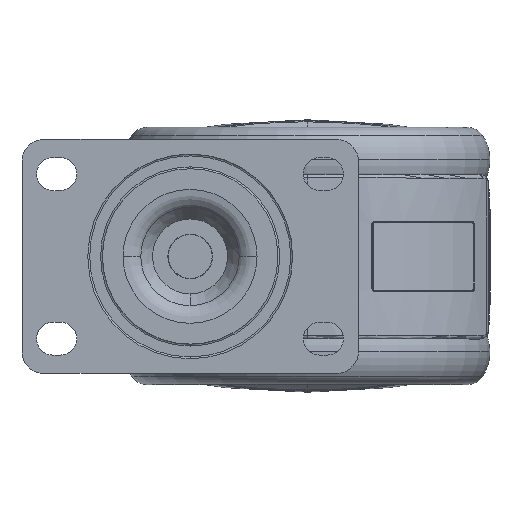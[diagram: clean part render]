
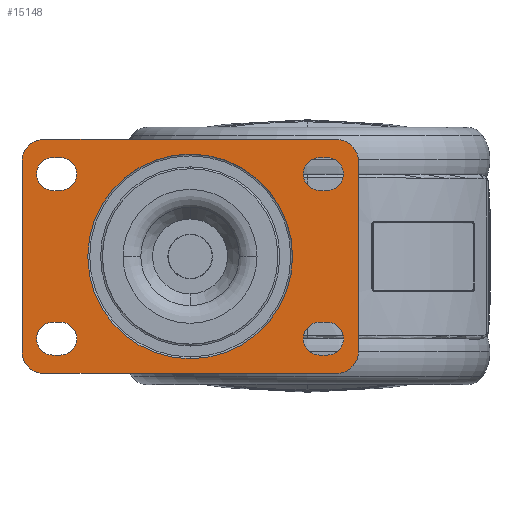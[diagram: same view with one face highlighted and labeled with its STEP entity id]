
A CAD part, top view. The second image highlights one B-rep face of the part: STEP entity #15148.
In plain terms, the highlighted planar face has unit normal (0, 0, 1).
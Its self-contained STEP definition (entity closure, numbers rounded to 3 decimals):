
#2256=FACE_BOUND('',#21851,.T.);
#2257=FACE_BOUND('',#21852,.T.);
#2258=FACE_BOUND('',#21853,.T.);
#2259=FACE_BOUND('',#21854,.T.);
#2260=FACE_BOUND('',#21855,.T.);
#2261=FACE_BOUND('',#21856,.T.);
#6232=LINE('',#131074,#10230);
#6235=LINE('',#131082,#10233);
#6237=LINE('',#131088,#10235);
#6240=LINE('',#131096,#10238);
#6242=LINE('',#131102,#10240);
#6245=LINE('',#131110,#10243);
#6247=LINE('',#131116,#10245);
#6250=LINE('',#131124,#10248);
#6254=LINE('',#131165,#10252);
#6258=LINE('',#131175,#10256);
#6261=LINE('',#131183,#10259);
#6263=LINE('',#131189,#10261);
#10230=VECTOR('',#85036,1.);
#10233=VECTOR('',#85045,1.);
#10235=VECTOR('',#85053,1.);
#10238=VECTOR('',#85062,1.);
#10240=VECTOR('',#85070,1.);
#10243=VECTOR('',#85079,1.);
#10245=VECTOR('',#85087,1.);
#10248=VECTOR('',#85096,1.);
#10252=VECTOR('',#85112,1.);
#10256=VECTOR('',#85122,1.);
#10259=VECTOR('',#85131,1.);
#10261=VECTOR('',#85139,1.);
#11605=PLANE('',#68678);
#15148=ADVANCED_FACE('',(#2256,#2257,#2258,#2259,#2260,#2261),#11605,.F.);
#21851=EDGE_LOOP('',(#44020,#44021,#44022,#44023,#44024));
#21852=EDGE_LOOP('',(#44025,#44026,#44027,#44028,#44029));
#21853=EDGE_LOOP('',(#44030,#44031,#44032,#44033,#44034));
#21854=EDGE_LOOP('',(#44035,#44036,#44037,#44038,#44039));
#21855=EDGE_LOOP('',(#44040,#44041));
#21856=EDGE_LOOP('',(#44042,#44043,#44044,#44045,#44046,#44047,#44048,#44049));
#24735=CIRCLE('',#68566,4.5);
#24737=CIRCLE('',#68569,4.5);
#24739=CIRCLE('',#68572,4.5);
#24741=CIRCLE('',#68575,4.5);
#24743=CIRCLE('',#68578,28.);
#24794=CIRCLE('',#68641,4.5);
#24795=CIRCLE('',#68644,4.5);
#24796=CIRCLE('',#68647,4.5);
#24797=CIRCLE('',#68650,4.5);
#24798=CIRCLE('',#68653,4.5);
#24799=CIRCLE('',#68656,4.5);
#24800=CIRCLE('',#68659,4.5);
#24801=CIRCLE('',#68662,4.5);
#24803=CIRCLE('',#68665,6.);
#24804=CIRCLE('',#68668,6.);
#24805=CIRCLE('',#68671,6.);
#24806=CIRCLE('',#68674,6.);
#24807=CIRCLE('',#68677,28.);
#44020=ORIENTED_EDGE('',*,*,#60256,.T.);
#44021=ORIENTED_EDGE('',*,*,#60164,.T.);
#44022=ORIENTED_EDGE('',*,*,#60257,.T.);
#44023=ORIENTED_EDGE('',*,*,#60259,.T.);
#44024=ORIENTED_EDGE('',*,*,#60253,.F.);
#44025=ORIENTED_EDGE('',*,*,#60263,.T.);
#44026=ORIENTED_EDGE('',*,*,#60168,.T.);
#44027=ORIENTED_EDGE('',*,*,#60264,.F.);
#44028=ORIENTED_EDGE('',*,*,#60266,.T.);
#44029=ORIENTED_EDGE('',*,*,#60260,.T.);
#44030=ORIENTED_EDGE('',*,*,#60269,.T.);
#44031=ORIENTED_EDGE('',*,*,#60271,.F.);
#44032=ORIENTED_EDGE('',*,*,#60273,.T.);
#44033=ORIENTED_EDGE('',*,*,#60172,.T.);
#44034=ORIENTED_EDGE('',*,*,#60267,.T.);
#44035=ORIENTED_EDGE('',*,*,#60276,.T.);
#44036=ORIENTED_EDGE('',*,*,#60278,.T.);
#44037=ORIENTED_EDGE('',*,*,#60280,.T.);
#44038=ORIENTED_EDGE('',*,*,#60176,.T.);
#44039=ORIENTED_EDGE('',*,*,#60274,.F.);
#44040=ORIENTED_EDGE('',*,*,#60180,.F.);
#44041=ORIENTED_EDGE('',*,*,#60298,.F.);
#44042=ORIENTED_EDGE('',*,*,#60290,.F.);
#44043=ORIENTED_EDGE('',*,*,#60292,.F.);
#44044=ORIENTED_EDGE('',*,*,#60294,.T.);
#44045=ORIENTED_EDGE('',*,*,#60295,.F.);
#44046=ORIENTED_EDGE('',*,*,#60297,.T.);
#44047=ORIENTED_EDGE('',*,*,#60283,.F.);
#44048=ORIENTED_EDGE('',*,*,#60285,.F.);
#44049=ORIENTED_EDGE('',*,*,#60287,.F.);
#50556=VERTEX_POINT('',#130897);
#50557=VERTEX_POINT('',#130898);
#50560=VERTEX_POINT('',#130906);
#50561=VERTEX_POINT('',#130907);
#50564=VERTEX_POINT('',#130915);
#50565=VERTEX_POINT('',#130916);
#50568=VERTEX_POINT('',#130924);
#50569=VERTEX_POINT('',#130925);
#50572=VERTEX_POINT('',#130933);
#50573=VERTEX_POINT('',#130934);
#50630=VERTEX_POINT('',#131075);
#50631=VERTEX_POINT('',#131076);
#50632=VERTEX_POINT('',#131083);
#50633=VERTEX_POINT('',#131089);
#50634=VERTEX_POINT('',#131090);
#50635=VERTEX_POINT('',#131097);
#50636=VERTEX_POINT('',#131103);
#50637=VERTEX_POINT('',#131107);
#50638=VERTEX_POINT('',#131111);
#50639=VERTEX_POINT('',#131117);
#50640=VERTEX_POINT('',#131121);
#50641=VERTEX_POINT('',#131125);
#50642=VERTEX_POINT('',#131160);
#50643=VERTEX_POINT('',#131162);
#50644=VERTEX_POINT('',#131166);
#50645=VERTEX_POINT('',#131170);
#50646=VERTEX_POINT('',#131174);
#50647=VERTEX_POINT('',#131178);
#50648=VERTEX_POINT('',#131182);
#50649=VERTEX_POINT('',#131186);
#60164=EDGE_CURVE('',#50556,#50557,#24735,.T.);
#60168=EDGE_CURVE('',#50560,#50561,#24737,.T.);
#60172=EDGE_CURVE('',#50564,#50565,#24739,.T.);
#60176=EDGE_CURVE('',#50568,#50569,#24741,.T.);
#60180=EDGE_CURVE('',#50572,#50573,#24743,.T.);
#60253=EDGE_CURVE('',#50630,#50631,#6232,.T.);
#60256=EDGE_CURVE('',#50630,#50556,#24794,.T.);
#60257=EDGE_CURVE('',#50557,#50632,#6235,.T.);
#60259=EDGE_CURVE('',#50632,#50631,#24795,.T.);
#60260=EDGE_CURVE('',#50633,#50634,#6237,.T.);
#60263=EDGE_CURVE('',#50634,#50560,#24796,.T.);
#60264=EDGE_CURVE('',#50635,#50561,#6240,.T.);
#60266=EDGE_CURVE('',#50635,#50633,#24797,.T.);
#60267=EDGE_CURVE('',#50565,#50636,#6242,.T.);
#60269=EDGE_CURVE('',#50636,#50637,#24798,.T.);
#60271=EDGE_CURVE('',#50638,#50637,#6245,.T.);
#60273=EDGE_CURVE('',#50638,#50564,#24799,.T.);
#60274=EDGE_CURVE('',#50639,#50569,#6247,.T.);
#60276=EDGE_CURVE('',#50639,#50640,#24800,.T.);
#60278=EDGE_CURVE('',#50640,#50641,#6250,.T.);
#60280=EDGE_CURVE('',#50641,#50568,#24801,.T.);
#60283=EDGE_CURVE('',#50642,#50643,#24803,.T.);
#60285=EDGE_CURVE('',#50644,#50642,#6254,.T.);
#60287=EDGE_CURVE('',#50645,#50644,#24804,.T.);
#60290=EDGE_CURVE('',#50646,#50645,#6258,.T.);
#60292=EDGE_CURVE('',#50647,#50646,#24805,.T.);
#60294=EDGE_CURVE('',#50647,#50648,#6261,.T.);
#60295=EDGE_CURVE('',#50649,#50648,#24806,.T.);
#60297=EDGE_CURVE('',#50649,#50643,#6263,.T.);
#60298=EDGE_CURVE('',#50573,#50572,#24807,.T.);
#68566=AXIS2_PLACEMENT_3D('',#130896,#84858,#84859);
#68569=AXIS2_PLACEMENT_3D('',#130905,#84866,#84867);
#68572=AXIS2_PLACEMENT_3D('',#130914,#84874,#84875);
#68575=AXIS2_PLACEMENT_3D('',#130923,#84882,#84883);
#68578=AXIS2_PLACEMENT_3D('',#130932,#84890,#84891);
#68641=AXIS2_PLACEMENT_3D('',#131080,#85041,#85042);
#68644=AXIS2_PLACEMENT_3D('',#131086,#85049,#85050);
#68647=AXIS2_PLACEMENT_3D('',#131094,#85058,#85059);
#68650=AXIS2_PLACEMENT_3D('',#131100,#85066,#85067);
#68653=AXIS2_PLACEMENT_3D('',#131106,#85074,#85075);
#68656=AXIS2_PLACEMENT_3D('',#131114,#85083,#85084);
#68659=AXIS2_PLACEMENT_3D('',#131120,#85091,#85092);
#68662=AXIS2_PLACEMENT_3D('',#131128,#85100,#85101);
#68665=AXIS2_PLACEMENT_3D('',#131161,#85107,#85108);
#68668=AXIS2_PLACEMENT_3D('',#131169,#85116,#85117);
#68671=AXIS2_PLACEMENT_3D('',#131179,#85126,#85127);
#68674=AXIS2_PLACEMENT_3D('',#131185,#85134,#85135);
#68677=AXIS2_PLACEMENT_3D('',#131191,#85142,#85143);
#68678=AXIS2_PLACEMENT_3D('',#131192,#85144,#85145);
#84858=DIRECTION('',(0.,0.,-1.));
#84859=DIRECTION('',(-1.,0.,0.));
#84866=DIRECTION('',(0.,0.,-1.));
#84867=DIRECTION('',(-1.,0.,0.));
#84874=DIRECTION('',(0.,0.,-1.));
#84875=DIRECTION('',(-1.,0.,0.));
#84882=DIRECTION('',(0.,0.,-1.));
#84883=DIRECTION('',(-1.,0.,0.));
#84890=DIRECTION('',(0.,0.,1.));
#84891=DIRECTION('',(-1.,0.,0.));
#85036=DIRECTION('',(1.,0.,0.));
#85041=DIRECTION('',(0.,0.,-1.));
#85042=DIRECTION('',(-1.,0.,0.));
#85045=DIRECTION('',(1.,0.,0.));
#85049=DIRECTION('',(0.,0.,-1.));
#85050=DIRECTION('',(-1.,0.,0.));
#85053=DIRECTION('',(-1.,0.,0.));
#85058=DIRECTION('',(0.,0.,-1.));
#85059=DIRECTION('',(-1.,0.,0.));
#85062=DIRECTION('',(-1.,0.,0.));
#85066=DIRECTION('',(0.,0.,-1.));
#85067=DIRECTION('',(-1.,0.,0.));
#85070=DIRECTION('',(1.,0.,0.));
#85074=DIRECTION('',(0.,0.,-1.));
#85075=DIRECTION('',(-1.,0.,0.));
#85079=DIRECTION('',(1.,0.,0.));
#85083=DIRECTION('',(0.,0.,-1.));
#85084=DIRECTION('',(-1.,0.,0.));
#85087=DIRECTION('',(-1.,0.,0.));
#85091=DIRECTION('',(0.,0.,-1.));
#85092=DIRECTION('',(-1.,0.,0.));
#85096=DIRECTION('',(-1.,0.,0.));
#85100=DIRECTION('',(0.,0.,-1.));
#85101=DIRECTION('',(-1.,0.,0.));
#85107=DIRECTION('',(0.,0.,-1.));
#85108=DIRECTION('',(-1.,0.,0.));
#85112=DIRECTION('',(0.,1.,0.));
#85116=DIRECTION('',(0.,0.,-1.));
#85117=DIRECTION('',(-1.,0.,0.));
#85122=DIRECTION('',(-1.,0.,0.));
#85126=DIRECTION('',(0.,0.,-1.));
#85127=DIRECTION('',(-1.,0.,0.));
#85131=DIRECTION('',(0.,1.,0.));
#85134=DIRECTION('',(0.,0.,-1.));
#85135=DIRECTION('',(-1.,0.,0.));
#85139=DIRECTION('',(-1.,0.,0.));
#85142=DIRECTION('',(0.,0.,1.));
#85143=DIRECTION('',(-1.,0.,0.));
#85144=DIRECTION('',(0.,0.,-1.));
#85145=DIRECTION('',(1.,0.,0.));
#130896=CARTESIAN_POINT('',(35.458,-22.478,0.));
#130897=CARTESIAN_POINT('',(30.958,-22.478,0.));
#130898=CARTESIAN_POINT('',(35.458,-17.978,0.));
#130905=CARTESIAN_POINT('',(35.458,22.522,0.));
#130906=CARTESIAN_POINT('',(30.958,22.522,0.));
#130907=CARTESIAN_POINT('',(35.458,27.022,0.));
#130914=CARTESIAN_POINT('',(-37.542,-22.478,0.));
#130915=CARTESIAN_POINT('',(-42.042,-22.478,0.));
#130916=CARTESIAN_POINT('',(-37.542,-17.978,0.));
#130923=CARTESIAN_POINT('',(-37.542,22.522,0.));
#130924=CARTESIAN_POINT('',(-42.042,22.522,0.));
#130925=CARTESIAN_POINT('',(-37.542,27.022,0.));
#130932=CARTESIAN_POINT('',(0.,0.,0.));
#130933=CARTESIAN_POINT('',(-28.,0.,0.));
#130934=CARTESIAN_POINT('',(28.,0.,0.));
#131074=CARTESIAN_POINT('',(37.958,-26.978,0.));
#131075=CARTESIAN_POINT('',(35.458,-26.978,0.));
#131076=CARTESIAN_POINT('',(37.458,-26.978,0.));
#131080=CARTESIAN_POINT('',(35.458,-22.478,0.));
#131082=CARTESIAN_POINT('',(37.958,-17.978,0.));
#131083=CARTESIAN_POINT('',(37.458,-17.978,0.));
#131086=CARTESIAN_POINT('',(37.458,-22.478,0.));
#131088=CARTESIAN_POINT('',(37.958,18.022,0.));
#131089=CARTESIAN_POINT('',(37.458,18.022,0.));
#131090=CARTESIAN_POINT('',(35.458,18.022,0.));
#131094=CARTESIAN_POINT('',(35.458,22.522,0.));
#131096=CARTESIAN_POINT('',(37.958,27.022,0.));
#131097=CARTESIAN_POINT('',(37.458,27.022,0.));
#131100=CARTESIAN_POINT('',(37.458,22.522,0.));
#131102=CARTESIAN_POINT('',(-38.042,-17.978,0.));
#131103=CARTESIAN_POINT('',(-35.542,-17.978,0.));
#131106=CARTESIAN_POINT('',(-35.542,-22.478,0.));
#131107=CARTESIAN_POINT('',(-35.542,-26.978,0.));
#131110=CARTESIAN_POINT('',(-38.042,-26.978,0.));
#131111=CARTESIAN_POINT('',(-37.542,-26.978,0.));
#131114=CARTESIAN_POINT('',(-37.542,-22.478,0.));
#131116=CARTESIAN_POINT('',(-38.042,27.022,0.));
#131117=CARTESIAN_POINT('',(-35.542,27.022,0.));
#131120=CARTESIAN_POINT('',(-35.542,22.522,0.));
#131121=CARTESIAN_POINT('',(-35.542,18.022,0.));
#131124=CARTESIAN_POINT('',(-38.042,18.022,0.));
#131125=CARTESIAN_POINT('',(-37.542,18.022,0.));
#131128=CARTESIAN_POINT('',(-37.542,22.522,0.));
#131160=CARTESIAN_POINT('',(-46.,26.,0.));
#131161=CARTESIAN_POINT('',(-40.,26.,0.));
#131162=CARTESIAN_POINT('',(-40.,32.,0.));
#131165=CARTESIAN_POINT('',(-46.,-28.,0.));
#131166=CARTESIAN_POINT('',(-46.,-26.,0.));
#131169=CARTESIAN_POINT('',(-40.,-26.,0.));
#131170=CARTESIAN_POINT('',(-40.,-32.,0.));
#131174=CARTESIAN_POINT('',(40.,-32.,0.));
#131175=CARTESIAN_POINT('',(-32.,-32.,0.));
#131178=CARTESIAN_POINT('',(46.,-26.,0.));
#131179=CARTESIAN_POINT('',(40.,-26.,0.));
#131182=CARTESIAN_POINT('',(46.,26.,0.));
#131183=CARTESIAN_POINT('',(46.,-28.,0.));
#131185=CARTESIAN_POINT('',(40.,26.,0.));
#131186=CARTESIAN_POINT('',(40.,32.,0.));
#131189=CARTESIAN_POINT('',(-32.,32.,0.));
#131191=CARTESIAN_POINT('',(0.,0.,0.));
#131192=CARTESIAN_POINT('',(-32.,-28.,0.));
